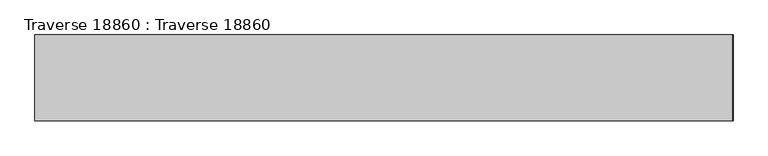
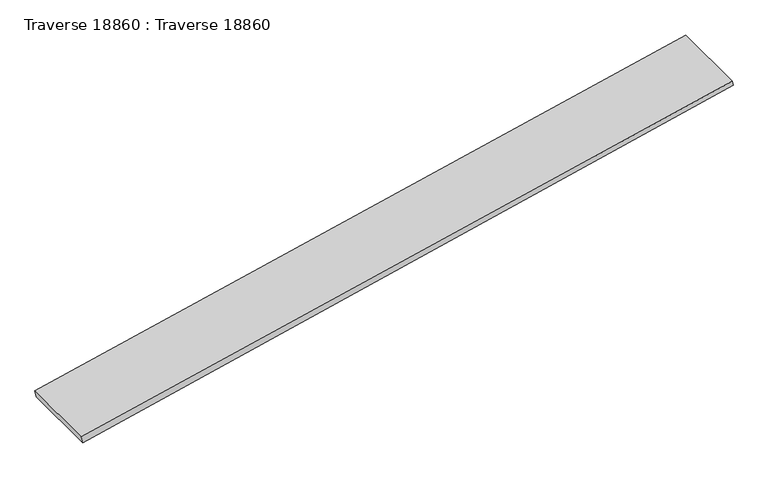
"""IFC4 building model written with IfcOpenShell, lengths in millimetres: beam geometry, Traverse 18860 : Traverse 18860."""

import ifcopenshell
import ifcopenshell.guid

model = None  # the IFC model being written
_history = None  # IfcOwnerHistory: only IFC2X3 demands one
_inside = {}  # id of a spatial element -> (the spatial element, [elements in it])
_under = {}  # id of a project, library or spatial element -> (it, [spatial elements below it])
_declared = {}  # id of a project -> (the project, [libraries it declares])
_typed = {}  # id of a type object -> (the type object, [elements of that type])
_made_of = {}  # id of a material, layer set ... -> (it, [elements and type objects made of it])


def new_model(schema):
    """Start an empty IFC model of exactly this schema.

    Asked for "IFC4X3", IfcOpenShell would pick the latest addendum, in which some entities
    have other attributes; the version numbers below select the first issue.
    IFC2X3 requires an IfcOwnerHistory on every rooted entity: one is made here for all.
    """
    global model, _history
    if schema == "IFC4X3":
        model = ifcopenshell.file(schema_version=(4, 3, 0, 0))
    else:
        model = ifcopenshell.file(schema=schema)
    _inside.clear()
    _under.clear()
    _declared.clear()
    _typed.clear()
    _made_of.clear()
    _history = None
    if model.schema == "IFC2X3":
        org = make("IfcOrganization", Name="unknown")
        user = make(
            "IfcPersonAndOrganization",
            ThePerson=make("IfcPerson", FamilyName="unknown"),
            TheOrganization=org,
        )
        app = make(
            "IfcApplication",
            ApplicationDeveloper=org,
            Version="unknown",
            ApplicationFullName="unknown",
            ApplicationIdentifier="unknown",
        )
        _history = make(
            "IfcOwnerHistory",
            OwningUser=user,
            OwningApplication=app,
            ChangeAction="ADDED",
            CreationDate=0,
        )
    return model


def make(cls, **values):
    """One entity of the class cls with the attributes given. An attribute that is None is left unset."""
    return model.create_entity(
        cls, **{name: value for name, value in values.items() if value is not None}
    )


def rooted(cls, **values):
    """An entity with a GlobalId (a new one), such as an element, a storey or a relation."""
    return make(cls, GlobalId=ifcopenshell.guid.new(), OwnerHistory=_history, **values)


def si_unit(unit_type, name, prefix=None):
    """IfcSIUnit, for example si_unit("LENGTHUNIT", "METRE", prefix="MILLI")."""
    return make("IfcSIUnit", UnitType=unit_type, Prefix=prefix, Name=name)


def assignment(units):
    """IfcUnitAssignment: the units of a project."""
    return None if units is None else make("IfcUnitAssignment", Units=units)


def point(xyz):
    """IfcCartesianPoint."""
    return None if xyz is None else make("IfcCartesianPoint", Coordinates=xyz)


def direction(xyz):
    """IfcDirection."""
    return None if xyz is None else make("IfcDirection", DirectionRatios=xyz)


def frame(location, z_axis=None, x_axis=None):
    """IfcAxis2Placement3D, a coordinate frame: its origin and axes. An axis left out is left unset."""
    return make(
        "IfcAxis2Placement3D",
        Location=point(location),
        Axis=direction(z_axis),
        RefDirection=direction(x_axis),
    )


def origin():
    """The frame at (0, 0, 0) with its axes left unset."""
    return frame((0.0, 0.0, 0.0))


def place(relative_to, where):
    """IfcLocalPlacement: puts the frame where relative to a parent placement (None: the world)."""
    return make(
        "IfcLocalPlacement", PlacementRelTo=relative_to, RelativePlacement=where
    )


def context(
    kind, dimensions, precision=None, world=None, true_north=None, identifier=None
):
    """IfcGeometricRepresentationContext, for example the 3D "Model" context."""
    return make(
        "IfcGeometricRepresentationContext",
        ContextIdentifier=identifier,
        ContextType=kind,
        CoordinateSpaceDimension=dimensions,
        Precision=precision,
        WorldCoordinateSystem=world,
        TrueNorth=true_north,
    )


def project(units=None, contexts=None):
    """IfcProject with its units and contexts."""
    return rooted(
        "IfcProject",
        Name="project",
        RepresentationContexts=contexts,
        UnitsInContext=assignment(units),
    )


def spatial(cls, under=None, at=None, **own):
    """A site, building, storey or space (cls), placed at a placement, below another one or the project."""
    s = rooted(cls, ObjectPlacement=at, **own)
    if under is not None:
        _under.setdefault(under.id(), (under, []))[1].append(s)
    return s


def polyline(points):
    """IfcPolyline through the points."""
    return make("IfcPolyline", Points=[point(p) for p in points])


def outline(outer, holes=None, kind="AREA"):
    """IfcArbitraryClosedProfileDef: a profile drawn as a closed curve; with holes, ...WithVoids."""
    if holes is None:
        return make("IfcArbitraryClosedProfileDef", ProfileType=kind, OuterCurve=outer)
    return make(
        "IfcArbitraryProfileDefWithVoids",
        ProfileType=kind,
        OuterCurve=outer,
        InnerCurves=holes,
    )


def extrude(swept, where, along, depth):
    """IfcExtrudedAreaSolid: the profile swept, set in the frame where, extruded along a direction by depth."""
    return make(
        "IfcExtrudedAreaSolid",
        SweptArea=swept,
        Position=where,
        ExtrudedDirection=direction(along),
        Depth=depth,
    )


def shape(context_of_items, identifier, shape_type, items):
    """IfcShapeRepresentation: the items that make up one representation, for example the "Body"."""
    return make(
        "IfcShapeRepresentation",
        ContextOfItems=context_of_items,
        RepresentationIdentifier=identifier,
        RepresentationType=shape_type,
        Items=items,
    )


def source(mapping_origin, context_of_items, identifier, shape_type, items):
    """IfcRepresentationMap: a shape defined once, which mapped items show again and again."""
    return make(
        "IfcRepresentationMap",
        MappingOrigin=mapping_origin,
        MappedRepresentation=shape(context_of_items, identifier, shape_type, items),
    )


def transform(
    local_origin,
    x_axis=None,
    y_axis=None,
    z_axis=None,
    scale=None,
    scale2=None,
    scale3=None,
    uniform=True,
):
    """IfcCartesianTransformationOperator3D, or its non-uniform kind. x_axis, y_axis, z_axis: its Axis1, 2, 3."""
    if uniform:
        return make(
            "IfcCartesianTransformationOperator3D",
            Axis1=direction(x_axis),
            Axis2=direction(y_axis),
            LocalOrigin=point(local_origin),
            Scale=scale,
            Axis3=direction(z_axis),
        )
    return make(
        "IfcCartesianTransformationOperator3DnonUniform",
        Axis1=direction(x_axis),
        Axis2=direction(y_axis),
        LocalOrigin=point(local_origin),
        Scale=scale,
        Axis3=direction(z_axis),
        Scale2=scale2,
        Scale3=scale3,
    )


def mapped(mapping_source, mapping_target):
    """IfcMappedItem: shows the shape of a source again, moved by a transform."""
    return make(
        "IfcMappedItem", MappingSource=mapping_source, MappingTarget=mapping_target
    )


def made_of(thing, what):
    """Note that an element or type object is made of a material, layer set ...; save() writes the relation."""
    if what is not None:
        _made_of.setdefault(what.id(), (what, []))[1].append(thing)
    return thing


def element(
    cls,
    number,
    at=None,
    inside=None,
    cuts=None,
    type_object=None,
    material=None,
    context=None,
    identifier="Body",
    shape_type=None,
    held_by="IfcProductDefinitionShape",
    body=None,
    shapes=None,
    **own,
):
    """One element of the class cls, such as IfcWall. Its Tag is "e" and its number.

    at: its placement. inside: the storey or other place that contains it. cuts: it is an
    opening in that element (IfcRelVoidsElement). A single representation is given by context,
    identifier, shape_type and body (its items); several are given by shapes. held_by: the class
    of the entity that holds the representations. save() writes the other relations.
    """
    e = rooted(cls, Tag="e%d" % number, ObjectPlacement=at, **own)
    if body is not None:
        shapes = [shape(context, identifier, shape_type, body)]
    if shapes is not None:
        e.Representation = make(held_by, Representations=shapes)
    if inside is not None:
        _inside.setdefault(inside.id(), (inside, []))[1].append(e)
    if cuts is not None:
        rooted(
            "IfcRelVoidsElement", RelatingBuildingElement=cuts, RelatedOpeningElement=e
        )
    if type_object is not None:
        _typed.setdefault(type_object.id(), (type_object, []))[1].append(e)
    return made_of(e, material)


def aggregate(whole, parts):
    """IfcRelAggregates: a whole, such as a stair, and the parts it consists of."""
    return rooted("IfcRelAggregates", RelatingObject=whole, RelatedObjects=parts)


def save(model, path):
    """Write the relations noted so far, then the file.

    IfcRelAggregates (storeys below a building ...), IfcRelContainedInSpatialStructure (elements
    in a storey), IfcRelDefinesByType, IfcRelAssociatesMaterial and IfcRelDeclares: one each for
    every whole, place, type object, material and project.
    """
    for whole, parts in _under.values():
        aggregate(whole, parts)
    for where, things in _inside.values():
        rooted(
            "IfcRelContainedInSpatialStructure",
            RelatedElements=things,
            RelatingStructure=where,
        )
    for kind, things in _typed.values():
        rooted("IfcRelDefinesByType", RelatedObjects=things, RelatingType=kind)
    for what, things in _made_of.values():
        rooted("IfcRelAssociatesMaterial", RelatedObjects=things, RelatingMaterial=what)
    for by, libraries in _declared.values():
        rooted("IfcRelDeclares", RelatingContext=by, RelatedDefinitions=libraries)
    model.write(path)


def traverse_18860_traverse_18860_c5b51de6(model_context):
    return source(origin(), model_context, "Body", "SweptSolid", [
        extrude(outline(polyline([(7227.4405163, 198.672699), (7565.5415421, 1657.4307363), (7575.5248218, 1655.1500909), (7242.0359427, 195.3384248), (7227.4405163, 198.672699)])), frame((0.0, -8690.0, 0.0), z_axis=(0.0, 1.0, 0.0), x_axis=(0.0, 0.0, 1.0)), (0.0, 0.0, 1.0), 180.0),
    ])


if __name__ == "__main__":
    model = new_model("IFC4")
    model_context = context("Model", 3, world=origin())
    ifc_project = project(units=[si_unit("LENGTHUNIT", "METRE", prefix="MILLI")], contexts=[model_context])
    site = spatial("IfcSite", under=ifc_project)
    building = spatial("IfcBuilding", under=site)
    placement = place(None, origin())
    traverse_18860_traverse_18860_shape = traverse_18860_traverse_18860_c5b51de6(model_context)
    element("IfcBeam", 1, ObjectType="Traverse 18860 : Traverse 18860", at=placement, inside=building, context=model_context, shape_type="MappedRepresentation", body=[
        mapped(traverse_18860_traverse_18860_shape, transform((0.0, 0.0, 0.0), x_axis=(1.0, 0.0, 0.0), y_axis=(0.0, 1.0, 0.0), z_axis=(0.0, 0.0, 1.0))),
    ])
    save(model, "model.ifc")
